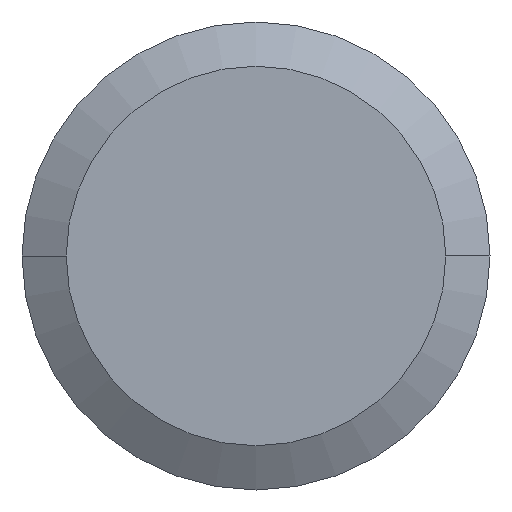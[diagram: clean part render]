
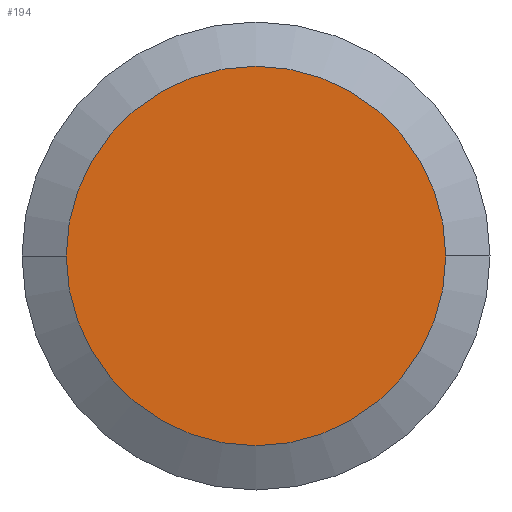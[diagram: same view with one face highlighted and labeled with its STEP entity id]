
A CAD part, front view. The second image highlights one B-rep face of the part: STEP entity #194.
In plain terms, the highlighted planar face has unit normal (0, -1, 0).
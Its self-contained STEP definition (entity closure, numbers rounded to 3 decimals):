
#2 = CIRCLE ( 'NONE', #94, 15. ) ;
#19 = DIRECTION ( 'NONE',  ( -1., 0., 0. ) ) ;
#20 = EDGE_CURVE ( 'NONE', #184, #104, #2, .T. ) ;
#22 = DIRECTION ( 'NONE',  ( 0., -1., 0. ) ) ;
#76 = FACE_OUTER_BOUND ( 'NONE', #140, .T. ) ;
#83 = DIRECTION ( 'NONE',  ( 0., 1., 0. ) ) ;
#94 = AXIS2_PLACEMENT_3D ( 'NONE', #199, #150, #19 ) ;
#104 = VERTEX_POINT ( 'NONE', #298 ) ;
#129 = CARTESIAN_POINT ( 'NONE',  ( 15., 0., 0. ) ) ;
#140 = EDGE_LOOP ( 'NONE', ( #244, #195 ) ) ;
#150 = DIRECTION ( 'NONE',  ( 0., 1., 0. ) ) ;
#162 = DIRECTION ( 'NONE',  ( -1., 0., 0. ) ) ;
#184 = VERTEX_POINT ( 'NONE', #129 ) ;
#194 = ADVANCED_FACE ( 'NONE', ( #76 ), #226, .T. ) ;
#195 = ORIENTED_EDGE ( 'NONE', *, *, #20, .F. ) ;
#199 = CARTESIAN_POINT ( 'NONE',  ( 0., 0., 0. ) ) ;
#216 = AXIS2_PLACEMENT_3D ( 'NONE', #252, #22, #306 ) ;
#226 = PLANE ( 'NONE',  #216 ) ;
#244 = ORIENTED_EDGE ( 'NONE', *, *, #267, .F. ) ;
#252 = CARTESIAN_POINT ( 'NONE',  ( 0., 0., 0. ) ) ;
#267 = EDGE_CURVE ( 'NONE', #104, #184, #302, .T. ) ;
#270 = AXIS2_PLACEMENT_3D ( 'NONE', #286, #83, #162 ) ;
#286 = CARTESIAN_POINT ( 'NONE',  ( 0., 0., 0. ) ) ;
#298 = CARTESIAN_POINT ( 'NONE',  ( -15., 0., 0. ) ) ;
#302 = CIRCLE ( 'NONE', #270, 15. ) ;
#306 = DIRECTION ( 'NONE',  ( 1., 0., 0. ) ) ;
